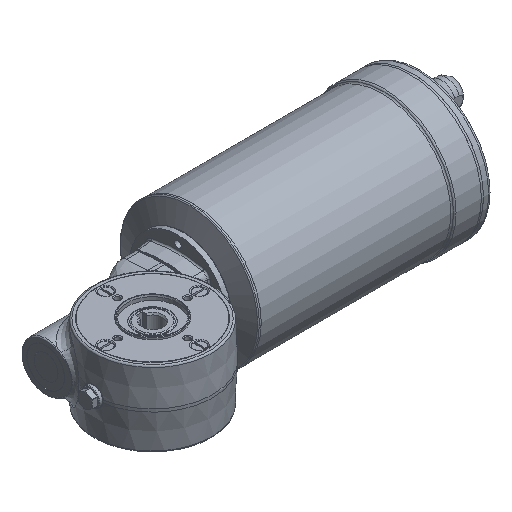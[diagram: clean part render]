
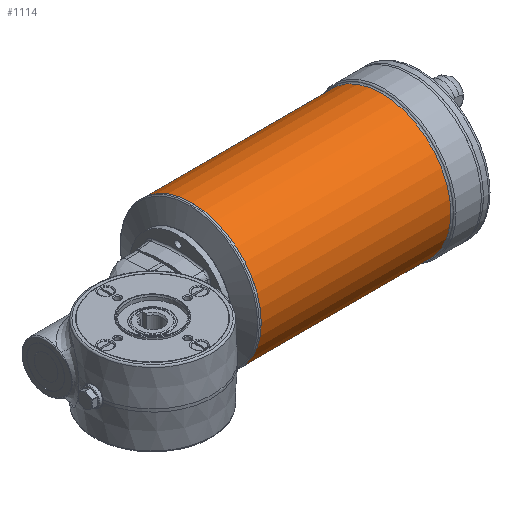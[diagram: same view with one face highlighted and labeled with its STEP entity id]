
A CAD part, isometric view. The second image highlights one B-rep face of the part: STEP entity #1114.
In plain terms, the highlighted cylindrical face has radius 64.5 mm (diameter 129 mm), a full revolution.
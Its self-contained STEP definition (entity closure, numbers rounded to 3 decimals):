
#1114 = ADVANCED_FACE( '', ( #2572, #2573 ), #2574, .T. );
#2572 = FACE_OUTER_BOUND( '', #6346, .T. );
#2573 = FACE_OUTER_BOUND( '', #6347, .T. );
#2574 = CYLINDRICAL_SURFACE( '', #6348, 64.5 );
#6346 = EDGE_LOOP( '', ( #12183 ) );
#6347 = EDGE_LOOP( '', ( #12184 ) );
#6348 = AXIS2_PLACEMENT_3D( '', #12185, #12186, #12187 );
#12183 = ORIENTED_EDGE( '', *, *, #14488, .T. );
#12184 = ORIENTED_EDGE( '', *, *, #14638, .T. );
#12185 = CARTESIAN_POINT( '', ( 241.668, 45., 0. ) );
#12186 = DIRECTION( '', ( -1., 0., 0. ) );
#12187 = DIRECTION( '', ( 0., 0., 1. ) );
#14488 = EDGE_CURVE( '', #16431, #16431, #16432, .F. );
#14638 = EDGE_CURVE( '', #16624, #16624, #16625, .T. );
#16431 = VERTEX_POINT( '', #20622 );
#16432 = CIRCLE( '', #20623, 64.5 );
#16624 = VERTEX_POINT( '', #21011 );
#16625 = CIRCLE( '', #21012, 64.5 );
#20622 = CARTESIAN_POINT( '', ( 257.672, 45., 64.5 ) );
#20623 = AXIS2_PLACEMENT_3D( '', #23144, #23145, #23146 );
#21011 = CARTESIAN_POINT( '', ( 81.5, 45., 64.5 ) );
#21012 = AXIS2_PLACEMENT_3D( '', #23324, #23325, #23326 );
#23144 = CARTESIAN_POINT( '', ( 257.672, 45., 0. ) );
#23145 = DIRECTION( '', ( 1., 0., 0. ) );
#23146 = DIRECTION( '', ( 0., 0., 1. ) );
#23324 = CARTESIAN_POINT( '', ( 81.5, 45., 0. ) );
#23325 = DIRECTION( '', ( 1., 0., 0. ) );
#23326 = DIRECTION( '', ( 0., 0., 1. ) );
